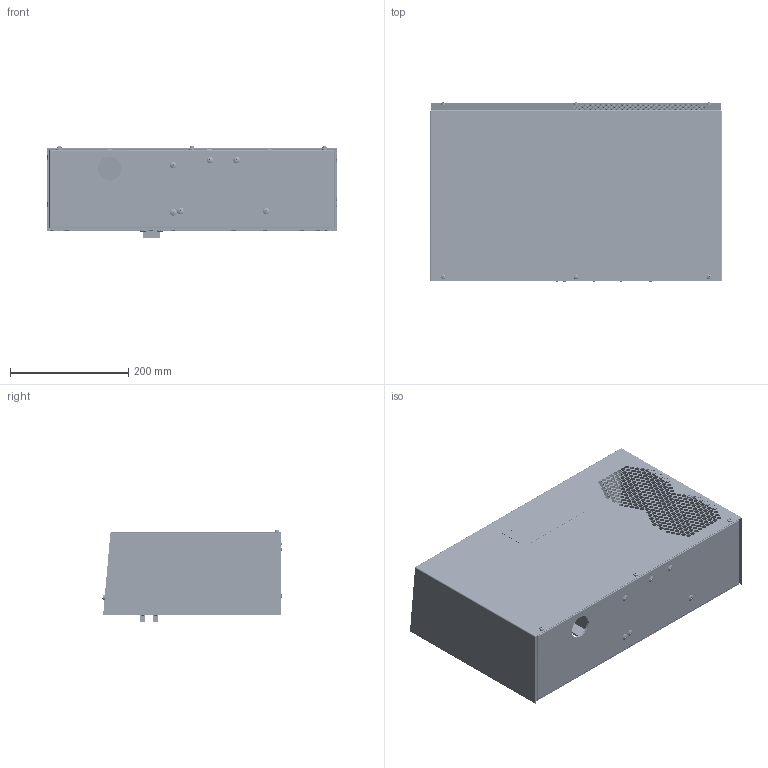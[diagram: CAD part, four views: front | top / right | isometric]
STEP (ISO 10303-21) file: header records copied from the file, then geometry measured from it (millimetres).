
FILE_DESCRIPTION (( 'STEP AP203' ), '1' );
FILE_NAME ('DTS 9011.STEP', '2008-11-11T06:56:24', ( 'Pfannenberg' ), ( 'Pfannenberg GmbH' ), 'SwSTEP 2.0', 'SolidWorks 2007', '' );
FILE_SCHEMA (( 'CONFIG_CONTROL_DESIGN' ));
Products named in the file (1): DTS 9011
Bounding box: 495 x 303.66 x 155.22 mm (x, y, z)
Volume: 1091247 mm3; surface area: 1725510.9 mm2
Topology: 73 solids, 73 shells, 3819 faces, 10339 edges, 6701 vertices
Faces by surface type: cylinder 2124, plane 1255, sphere 178, cone 141, torus 62, bspline 59
Entity records: 127247 total; most frequent: CARTESIAN_POINT 24450, DIRECTION 22465, ORIENTED_EDGE 20374, EDGE_CURVE 10187, AXIS2_PLACEMENT_3D 8828, VERTEX_POINT 6623, EDGE_LOOP 5758, CIRCLE 5067
